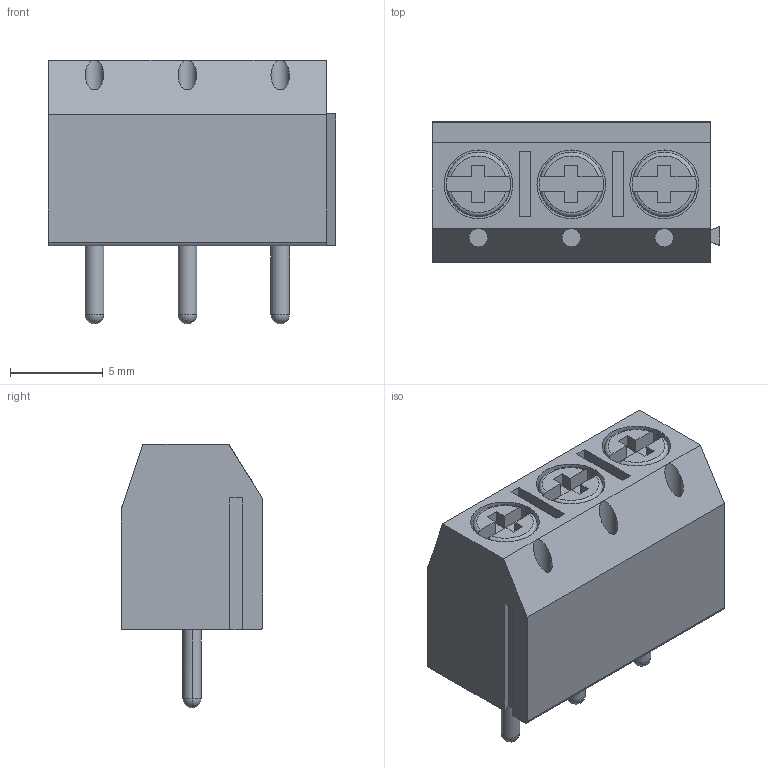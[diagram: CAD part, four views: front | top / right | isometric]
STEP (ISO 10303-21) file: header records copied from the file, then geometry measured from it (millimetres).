
FILE_DESCRIPTION (( 'STEP AP203' ), '1' );
FILE_NAME ('BR103.STEP', '2020-02-20T03:49:27', ( '' ), ( '' ), 'SwSTEP 2.0', 'SolidWorks 2019', '' );
FILE_SCHEMA (( 'CONFIG_CONTROL_DESIGN' ));
Length unit declared in the file: millimetre
Products named in the file (1): BR103
Bounding box: 15.5 x 7.6 x 14.2 mm (x, y, z)
Volume: 940.8 mm3; surface area: 1175.5 mm2
Topology: 1 solids, 1 shells, 181 faces, 516 edges, 333 vertices
Faces by surface type: plane 120, cylinder 49, sphere 6, torus 6
Entity records: 5949 total; most frequent: CARTESIAN_POINT 1232, ORIENTED_EDGE 984, DIRECTION 954, EDGE_CURVE 492, VECTOR 352, LINE 352, VERTEX_POINT 321, AXIS2_PLACEMENT_3D 301
